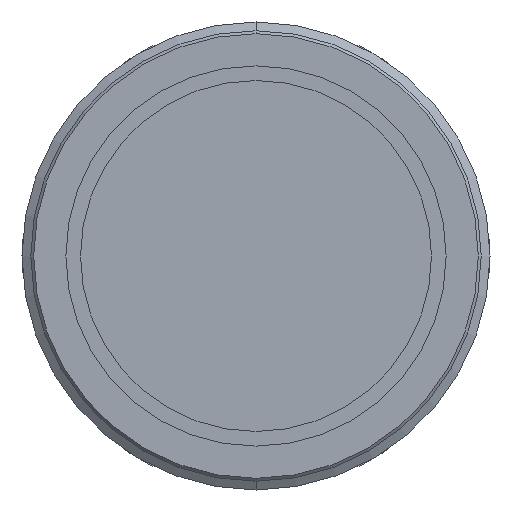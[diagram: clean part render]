
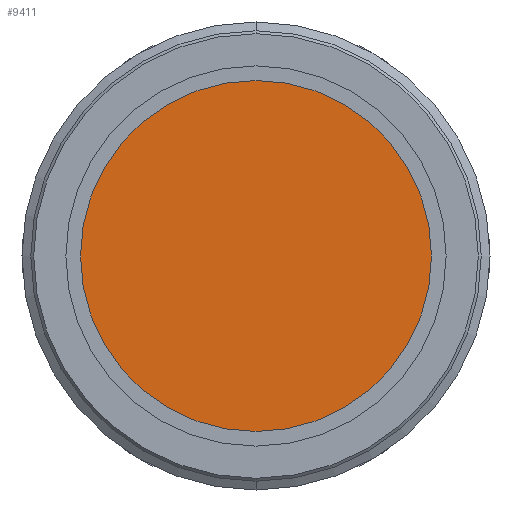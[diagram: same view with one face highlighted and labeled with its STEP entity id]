
A CAD part, front view. The second image highlights one B-rep face of the part: STEP entity #9411.
In plain terms, the highlighted planar face has unit normal (0, -1, 0).
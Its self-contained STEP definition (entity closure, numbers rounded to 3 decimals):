
#773 = PLANE ( 'NONE',  #12486 ) ;
#1581 = EDGE_LOOP ( 'NONE', ( #12125, #11153 ) ) ;
#1940 = DIRECTION ( 'NONE',  ( 0., 0., 1. ) ) ;
#2565 = EDGE_CURVE ( 'NONE', #5752, #7804, #14006, .T. ) ;
#4172 = CIRCLE ( 'NONE', #4534, 30. ) ;
#4467 = DIRECTION ( 'NONE',  ( 0., -1., 0. ) ) ;
#4534 = AXIS2_PLACEMENT_3D ( 'NONE', #11249, #4467, #12379 ) ;
#5752 = VERTEX_POINT ( 'NONE', #13654 ) ;
#6101 = EDGE_CURVE ( 'NONE', #7804, #5752, #4172, .T. ) ;
#7516 = AXIS2_PLACEMENT_3D ( 'NONE', #10244, #10294, #10338 ) ;
#7752 = CARTESIAN_POINT ( 'NONE',  ( -30., -33.899, 0. ) ) ;
#7804 = VERTEX_POINT ( 'NONE', #8880 ) ;
#8867 = DIRECTION ( 'NONE',  ( 0., 1., 0. ) ) ;
#8880 = CARTESIAN_POINT ( 'NONE',  ( 0., -33.899, 30. ) ) ;
#9411 = ADVANCED_FACE ( 'NONE', ( #11441 ), #773, .F. ) ;
#10244 = CARTESIAN_POINT ( 'NONE',  ( 0., -33.899, 0. ) ) ;
#10294 = DIRECTION ( 'NONE',  ( 0., -1., 0. ) ) ;
#10338 = DIRECTION ( 'NONE',  ( 0., 0., -1. ) ) ;
#11153 = ORIENTED_EDGE ( 'NONE', *, *, #6101, .T. ) ;
#11249 = CARTESIAN_POINT ( 'NONE',  ( 0., -33.899, 0. ) ) ;
#11441 = FACE_OUTER_BOUND ( 'NONE', #1581, .T. ) ;
#12125 = ORIENTED_EDGE ( 'NONE', *, *, #2565, .T. ) ;
#12379 = DIRECTION ( 'NONE',  ( 0., 0., -1. ) ) ;
#12486 = AXIS2_PLACEMENT_3D ( 'NONE', #7752, #8867, #1940 ) ;
#13654 = CARTESIAN_POINT ( 'NONE',  ( 0., -33.899, -30. ) ) ;
#14006 = CIRCLE ( 'NONE', #7516, 30. ) ;
